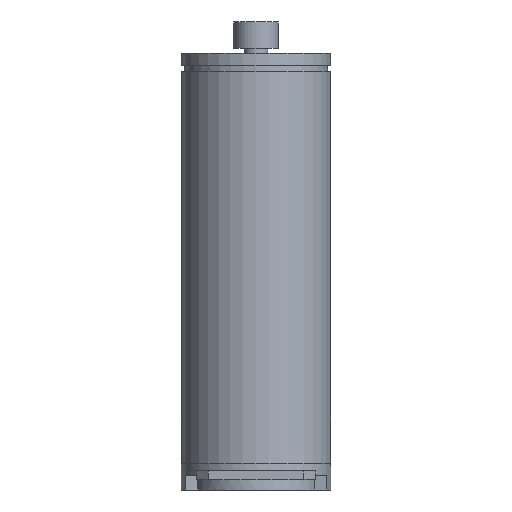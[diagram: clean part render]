
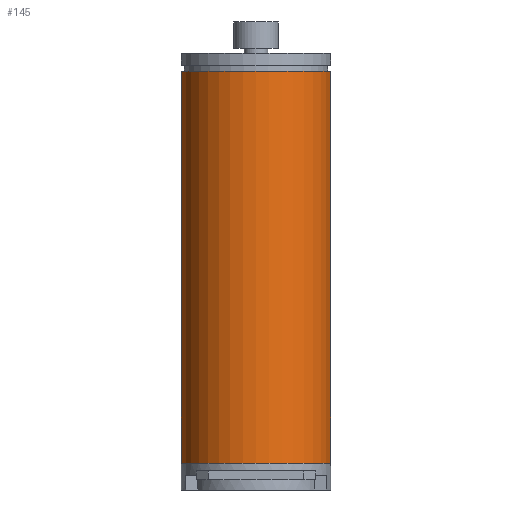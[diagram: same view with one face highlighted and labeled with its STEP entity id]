
A CAD part, front view. The second image highlights one B-rep face of the part: STEP entity #145.
In plain terms, the highlighted cylindrical face has radius 2.5 mm (diameter 5 mm), a full revolution.
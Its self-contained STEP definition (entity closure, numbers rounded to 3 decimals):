
#88=CYLINDRICAL_SURFACE('',#1339,2.5);
#105=FACE_BOUND('',#332,.T.);
#106=FACE_BOUND('',#333,.T.);
#145=ADVANCED_FACE('',(#105,#106),#88,.T.);
#332=EDGE_LOOP('',(#480));
#333=EDGE_LOOP('',(#481));
#431=CIRCLE('',#1337,2.5);
#432=CIRCLE('',#1338,2.5);
#480=ORIENTED_EDGE('',*,*,#946,.T.);
#481=ORIENTED_EDGE('',*,*,#947,.F.);
#822=VERTEX_POINT('',#1797);
#823=VERTEX_POINT('',#1799);
#946=EDGE_CURVE('',#822,#822,#431,.T.);
#947=EDGE_CURVE('',#823,#823,#432,.T.);
#1337=AXIS2_PLACEMENT_3D('',#1796,#1467,#1468);
#1338=AXIS2_PLACEMENT_3D('',#1798,#1469,#1470);
#1339=AXIS2_PLACEMENT_3D('',#1800,#1471,#1472);
#1467=DIRECTION('',(0.,0.,-1.));
#1468=DIRECTION('',(-1.,0.,0.));
#1469=DIRECTION('',(0.,0.,-1.));
#1470=DIRECTION('',(-1.,0.,0.));
#1471=DIRECTION('',(0.,0.,-1.));
#1472=DIRECTION('',(-1.,0.,0.));
#1796=CARTESIAN_POINT('',(0.,0.,-0.6));
#1797=CARTESIAN_POINT('',(-2.5,0.,-0.6));
#1798=CARTESIAN_POINT('',(0.,0.,-13.7));
#1799=CARTESIAN_POINT('',(-2.5,0.,-13.7));
#1800=CARTESIAN_POINT('',(0.,0.,-0.6));
